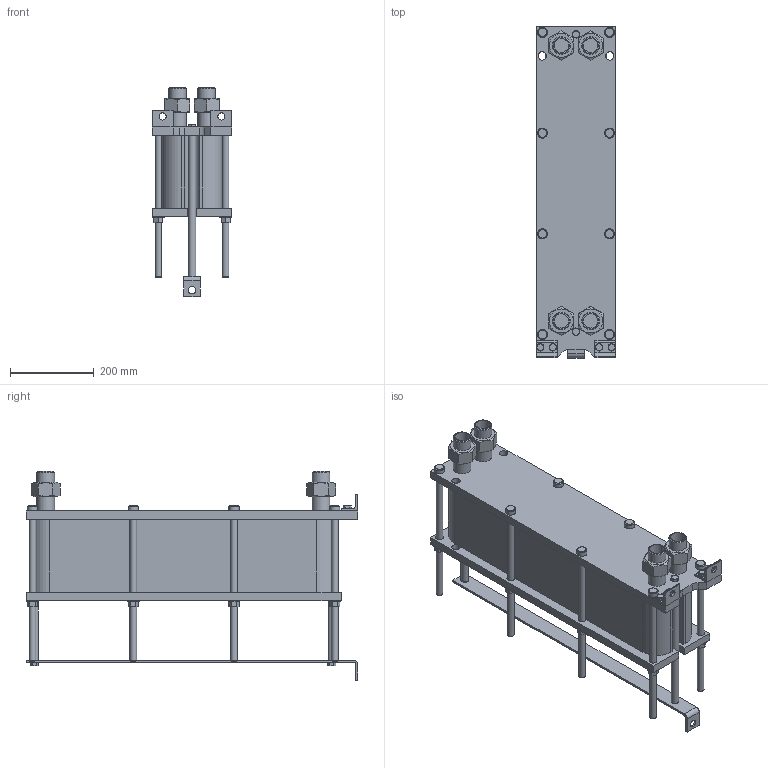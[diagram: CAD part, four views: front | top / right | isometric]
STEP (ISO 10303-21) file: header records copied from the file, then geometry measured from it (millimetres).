
FILE_DESCRIPTION(/* description */ (''),/* implementation_level */ '2;1');
FILE_NAME(/* name */ 'C:\Users\zhuro\Desktop\ENCO\TO\ЭН-008\ЭН-0,5-008-56-1.stp',/* time_stamp */ '2022-06-06T10:49:58+03:00',/* author */ ('zhuro'),/* organization */ (''),/* preprocessor_version */ 'ST-DEVELOPER v18.1',/* originating_system */ 'Autodesk Inventor 2022',/* authorisation */ '');
FILE_SCHEMA (('AUTOMOTIVE_DESIGN { 1 0 10303 214 3 1 1 }'));
Length unit declared in the file: millimetre
Products named in the file (1): ЭН-0,5-008-56-1
Bounding box: 190 x 790 x 497.8 mm (x, y, z)
Volume: 24481620.4 mm3; surface area: 1649336.3 mm2
Topology: 40 solids, 40 shells, 428 faces, 924 edges, 606 vertices
Faces by surface type: plane 273, cylinder 109, cone 40, torus 6
Full cylindrical faces by diameter (mm): 12 x6, 14 x2, 16 x20, 17 x8, 18 x19, 20 x5, 24 x8, 28 x8, 34.3 x8, 42.3 x8
Entity records: 15843 total; most frequent: CARTESIAN_POINT 5991, DIRECTION 1984, ORIENTED_EDGE 1848, EDGE_CURVE 924, AXIS2_PLACEMENT_3D 715, VERTEX_POINT 606, LINE 554, VECTOR 554
